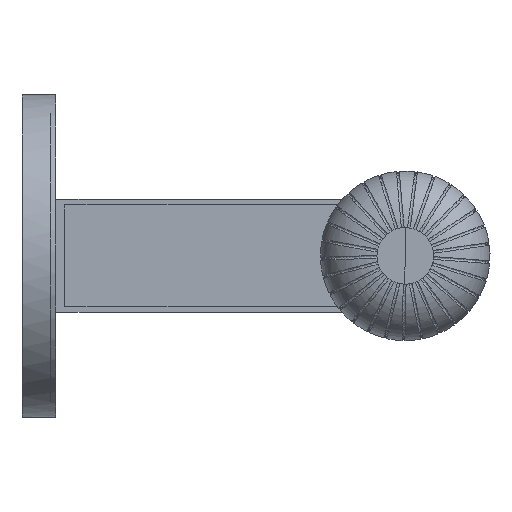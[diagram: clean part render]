
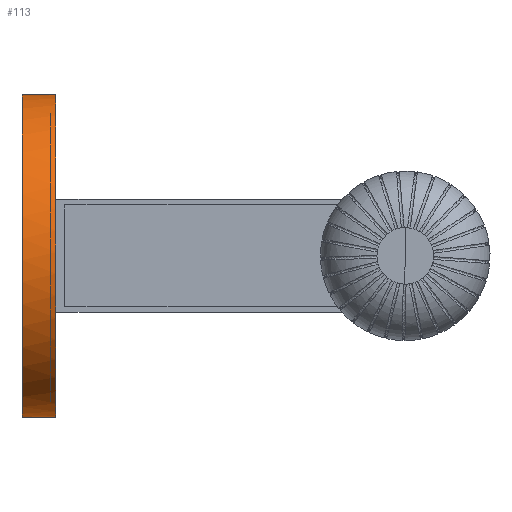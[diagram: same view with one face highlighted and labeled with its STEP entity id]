
A CAD part, left-side view. The second image highlights one B-rep face of the part: STEP entity #113.
In plain terms, the highlighted free-form (B-spline) face has degree [2, 1] with [5, 2] control points.
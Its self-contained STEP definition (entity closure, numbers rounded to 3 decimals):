
#113=ADVANCED_FACE('',(#670),#16532,.T.);
#670=FACE_OUTER_BOUND('',#1227,.T.);
#1227=EDGE_LOOP('',(#1793,#1794,#1795,#1796));
#1793=ORIENTED_EDGE('',*,*,#13461,.T.);
#1794=ORIENTED_EDGE('',*,*,#13462,.T.);
#1795=ORIENTED_EDGE('',*,*,#13463,.T.);
#1796=ORIENTED_EDGE('',*,*,#13464,.T.);
#4313=PCURVE('',#16532,#6833);
#4314=PCURVE('',#16532,#6834);
#4315=PCURVE('',#16532,#6835);
#4316=PCURVE('',#16532,#6836);
#4322=PCURVE('',#16373,#6842);
#4327=PCURVE('',#16375,#6847);
#4330=PCURVE('',#16534,#6850);
#4332=PCURVE('',#16534,#6852);
#6833=DEFINITIONAL_REPRESENTATION('',(#9353),#45649);
#6834=DEFINITIONAL_REPRESENTATION('',(#9354),#45649);
#6835=DEFINITIONAL_REPRESENTATION('',(#9355),#45649);
#6836=DEFINITIONAL_REPRESENTATION('',(#9356),#45649);
#6842=DEFINITIONAL_REPRESENTATION('',(#14731),#45649);
#6847=DEFINITIONAL_REPRESENTATION('',(#14738),#45649);
#6850=DEFINITIONAL_REPRESENTATION('',(#9362),#45649);
#6852=DEFINITIONAL_REPRESENTATION('',(#9364),#45649);
#9353=B_SPLINE_CURVE_WITH_KNOTS('',1,(#17076,#17077),.UNSPECIFIED.,.F.,
 .F.,(2,2),(0.,12.),.UNSPECIFIED.);
#9354=B_SPLINE_CURVE_WITH_KNOTS('',1,(#17083,#17084),.UNSPECIFIED.,.F.,
 .F.,(2,2),(-179.542,0.),.UNSPECIFIED.);
#9355=B_SPLINE_CURVE_WITH_KNOTS('',1,(#17087,#17088),.UNSPECIFIED.,.F.,
 .F.,(2,2),(-12.,0.),.UNSPECIFIED.);
#9356=B_SPLINE_CURVE_WITH_KNOTS('',1,(#17094,#17095),.UNSPECIFIED.,.F.,
 .F.,(2,2),(0.,179.542),.UNSPECIFIED.);
#9362=B_SPLINE_CURVE_WITH_KNOTS('',1,(#17180,#17181),.UNSPECIFIED.,.F.,
 .F.,(2,2),(-12.,0.),.UNSPECIFIED.);
#9364=B_SPLINE_CURVE_WITH_KNOTS('',1,(#17184,#17185),.UNSPECIFIED.,.F.,
 .F.,(2,2),(0.,12.),.UNSPECIFIED.);
#12201=SURFACE_CURVE('',#14721,(#4313,#4332),.PCURVE_S1.);
#12202=SURFACE_CURVE('',#14722,(#4314,#4327),.PCURVE_S1.);
#12203=SURFACE_CURVE('',#14723,(#4315,#4330),.PCURVE_S1.);
#12204=SURFACE_CURVE('',#14724,(#4316,#4322),.PCURVE_S1.);
#13461=EDGE_CURVE('',#15657,#15658,#12201,.T.);
#13462=EDGE_CURVE('',#15658,#15654,#12202,.T.);
#13463=EDGE_CURVE('',#15654,#15653,#12203,.T.);
#13464=EDGE_CURVE('',#15653,#15657,#12204,.T.);
#14721=(
BOUNDED_CURVE()
B_SPLINE_CURVE(1,(#17074,#17075),.UNSPECIFIED.,.F.,.F.)
B_SPLINE_CURVE_WITH_KNOTS((2,2),(0.,12.),.UNSPECIFIED.)
CURVE()
GEOMETRIC_REPRESENTATION_ITEM()
RATIONAL_B_SPLINE_CURVE((1.,1.))
REPRESENTATION_ITEM('')
);
#14722=(
BOUNDED_CURVE()
B_SPLINE_CURVE(2,(#17078,#17079,#17080,#17081,#17082),.UNSPECIFIED.,.F.,
 .F.)
B_SPLINE_CURVE_WITH_KNOTS((3,2,3),(-179.542,-89.771,
0.),.UNSPECIFIED.)
CURVE()
GEOMETRIC_REPRESENTATION_ITEM()
RATIONAL_B_SPLINE_CURVE((1.,0.707,1.,0.707,1.))
REPRESENTATION_ITEM('')
);
#14723=(
BOUNDED_CURVE()
B_SPLINE_CURVE(1,(#17085,#17086),.UNSPECIFIED.,.F.,.F.)
B_SPLINE_CURVE_WITH_KNOTS((2,2),(-12.,0.),.UNSPECIFIED.)
CURVE()
GEOMETRIC_REPRESENTATION_ITEM()
RATIONAL_B_SPLINE_CURVE((1.,1.))
REPRESENTATION_ITEM('')
);
#14724=(
BOUNDED_CURVE()
B_SPLINE_CURVE(2,(#17089,#17090,#17091,#17092,#17093),.UNSPECIFIED.,.F.,
 .F.)
B_SPLINE_CURVE_WITH_KNOTS((3,2,3),(0.,89.771,179.542),
 .UNSPECIFIED.)
CURVE()
GEOMETRIC_REPRESENTATION_ITEM()
RATIONAL_B_SPLINE_CURVE((1.,0.707,1.,0.707,1.))
REPRESENTATION_ITEM('')
);
#14731=(
BOUNDED_CURVE()
B_SPLINE_CURVE(2,(#17128,#17129,#17130,#17131,#17132),.UNSPECIFIED.,.F.,
 .F.)
B_SPLINE_CURVE_WITH_KNOTS((3,2,3),(0.,89.771,179.542),
 .UNSPECIFIED.)
CURVE()
GEOMETRIC_REPRESENTATION_ITEM()
RATIONAL_B_SPLINE_CURVE((1.,0.707,1.,0.707,1.))
REPRESENTATION_ITEM('')
);
#14738=(
BOUNDED_CURVE()
B_SPLINE_CURVE(2,(#17163,#17164,#17165,#17166,#17167),.UNSPECIFIED.,.F.,
 .F.)
B_SPLINE_CURVE_WITH_KNOTS((3,2,3),(-179.542,-89.771,
0.),.UNSPECIFIED.)
CURVE()
GEOMETRIC_REPRESENTATION_ITEM()
RATIONAL_B_SPLINE_CURVE((1.,0.707,1.,0.707,1.))
REPRESENTATION_ITEM('')
);
#15653=VERTEX_POINT('',#17066);
#15654=VERTEX_POINT('',#17067);
#15657=VERTEX_POINT('',#17070);
#15658=VERTEX_POINT('',#17071);
#16373=B_SPLINE_SURFACE_WITH_KNOTS('',1,1,((#17034,#17035),(#17036,#17037)),
 .UNSPECIFIED.,.F.,.F.,.F.,(2,2),(2,2),(-71.438,71.438),(-71.438,71.438),
 .UNSPECIFIED.);
#16375=B_SPLINE_SURFACE_WITH_KNOTS('',1,1,((#17042,#17043),(#17044,#17045)),
 .UNSPECIFIED.,.F.,.F.,.F.,(2,2),(2,2),(0.,143.268),(0.,143.268),
 .UNSPECIFIED.);
#16532=(
BOUNDED_SURFACE()
B_SPLINE_SURFACE(2,1,((#17014,#17015),(#17016,#17017),(#17018,#17019),(#17020,
#17021),(#17022,#17023)),.UNSPECIFIED.,.F.,.F.,.F.)
B_SPLINE_SURFACE_WITH_KNOTS((3,2,3),(2,2),(0.,89.771,179.542),
(0.,12.),.UNSPECIFIED.)
GEOMETRIC_REPRESENTATION_ITEM()
RATIONAL_B_SPLINE_SURFACE(((1.,1.),(0.707,0.707),
(1.,1.),(0.707,0.707),(1.,1.)))
REPRESENTATION_ITEM('')
SURFACE()
);
#16534=(
BOUNDED_SURFACE()
B_SPLINE_SURFACE(2,1,((#17046,#17047),(#17048,#17049),(#17050,#17051),(#17052,
#17053),(#17054,#17055)),.UNSPECIFIED.,.F.,.F.,.F.)
B_SPLINE_SURFACE_WITH_KNOTS((3,2,3),(2,2),(179.542,269.313,
359.084),(0.,12.),.UNSPECIFIED.)
GEOMETRIC_REPRESENTATION_ITEM()
RATIONAL_B_SPLINE_SURFACE(((1.,1.),(0.707,0.707),
(1.,1.),(0.707,0.707),(1.,1.)))
REPRESENTATION_ITEM('')
SURFACE()
);
#17014=CARTESIAN_POINT('',(-0.143,22.,74.602));
#17015=CARTESIAN_POINT('',(-0.143,10.,74.602));
#17016=CARTESIAN_POINT('',(-57.293,22.,74.523));
#17017=CARTESIAN_POINT('',(-57.293,10.,74.523));
#17018=CARTESIAN_POINT('',(-57.214,22.,17.373));
#17019=CARTESIAN_POINT('',(-57.214,10.,17.373));
#17020=CARTESIAN_POINT('',(-57.135,22.,-39.777));
#17021=CARTESIAN_POINT('',(-57.135,10.,-39.777));
#17022=CARTESIAN_POINT('',(0.015,22.,-39.698));
#17023=CARTESIAN_POINT('',(0.015,10.,-39.698));
#17034=CARTESIAN_POINT('',(71.472,22.,-53.887));
#17035=CARTESIAN_POINT('',(71.275,22.,88.988));
#17036=CARTESIAN_POINT('',(-71.403,22.,-54.084));
#17037=CARTESIAN_POINT('',(-71.6,22.,88.791));
#17042=CARTESIAN_POINT('',(71.669,10.,-54.084));
#17043=CARTESIAN_POINT('',(-71.599,10.,-54.281));
#17044=CARTESIAN_POINT('',(71.472,10.,89.185));
#17045=CARTESIAN_POINT('',(-71.797,10.,88.987));
#17046=CARTESIAN_POINT('',(0.015,22.,-39.698));
#17047=CARTESIAN_POINT('',(0.015,10.,-39.698));
#17048=CARTESIAN_POINT('',(57.165,22.,-39.619));
#17049=CARTESIAN_POINT('',(57.165,10.,-39.619));
#17050=CARTESIAN_POINT('',(57.086,22.,17.531));
#17051=CARTESIAN_POINT('',(57.086,10.,17.531));
#17052=CARTESIAN_POINT('',(57.007,22.,74.68));
#17053=CARTESIAN_POINT('',(57.007,10.,74.68));
#17054=CARTESIAN_POINT('',(-0.143,22.,74.602));
#17055=CARTESIAN_POINT('',(-0.143,10.,74.602));
#17066=CARTESIAN_POINT('',(-0.143,22.,74.602));
#17067=CARTESIAN_POINT('',(-0.143,10.,74.602));
#17070=CARTESIAN_POINT('',(0.015,22.,-39.698));
#17071=CARTESIAN_POINT('',(0.015,10.,-39.698));
#17074=CARTESIAN_POINT('',(0.015,22.,-39.698));
#17075=CARTESIAN_POINT('',(0.015,10.,-39.698));
#17076=CARTESIAN_POINT('',(179.542,0.));
#17077=CARTESIAN_POINT('',(179.542,12.));
#17078=CARTESIAN_POINT('',(0.015,10.,-39.698));
#17079=CARTESIAN_POINT('',(-57.135,10.,-39.777));
#17080=CARTESIAN_POINT('',(-57.214,10.,17.373));
#17081=CARTESIAN_POINT('',(-57.293,10.,74.523));
#17082=CARTESIAN_POINT('',(-0.143,10.,74.602));
#17083=CARTESIAN_POINT('',(179.542,12.));
#17084=CARTESIAN_POINT('',(0.,12.));
#17085=CARTESIAN_POINT('',(-0.143,10.,74.602));
#17086=CARTESIAN_POINT('',(-0.143,22.,74.602));
#17087=CARTESIAN_POINT('',(0.,12.));
#17088=CARTESIAN_POINT('',(0.,0.));
#17089=CARTESIAN_POINT('',(-0.143,22.,74.602));
#17090=CARTESIAN_POINT('',(-57.293,22.,74.523));
#17091=CARTESIAN_POINT('',(-57.214,22.,17.373));
#17092=CARTESIAN_POINT('',(-57.135,22.,-39.777));
#17093=CARTESIAN_POINT('',(0.015,22.,-39.698));
#17094=CARTESIAN_POINT('',(0.,0.));
#17095=CARTESIAN_POINT('',(179.542,0.));
#17128=CARTESIAN_POINT('',(0.,57.15));
#17129=CARTESIAN_POINT('',(57.15,57.15));
#17130=CARTESIAN_POINT('',(57.15,0.));
#17131=CARTESIAN_POINT('',(57.15,-57.15));
#17132=CARTESIAN_POINT('',(0.,-57.15));
#17163=CARTESIAN_POINT('',(14.484,71.634));
#17164=CARTESIAN_POINT('',(14.484,128.784));
#17165=CARTESIAN_POINT('',(71.634,128.784));
#17166=CARTESIAN_POINT('',(128.784,128.784));
#17167=CARTESIAN_POINT('',(128.784,71.634));
#17180=CARTESIAN_POINT('',(359.084,12.));
#17181=CARTESIAN_POINT('',(359.084,0.));
#17184=CARTESIAN_POINT('',(179.542,0.));
#17185=CARTESIAN_POINT('',(179.542,12.));
#45649=(
GEOMETRIC_REPRESENTATION_CONTEXT(2)
PARAMETRIC_REPRESENTATION_CONTEXT()
REPRESENTATION_CONTEXT('pspace','')
);
